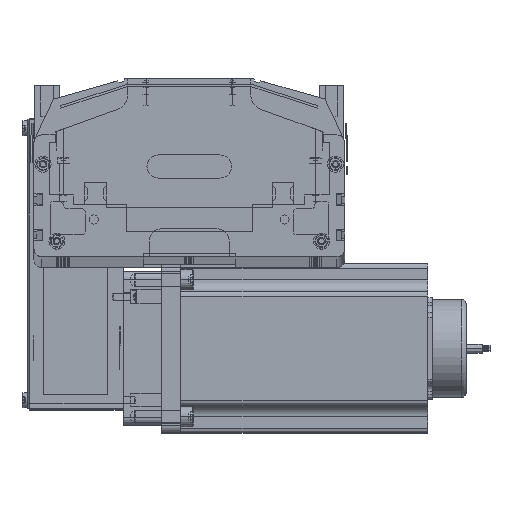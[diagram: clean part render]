
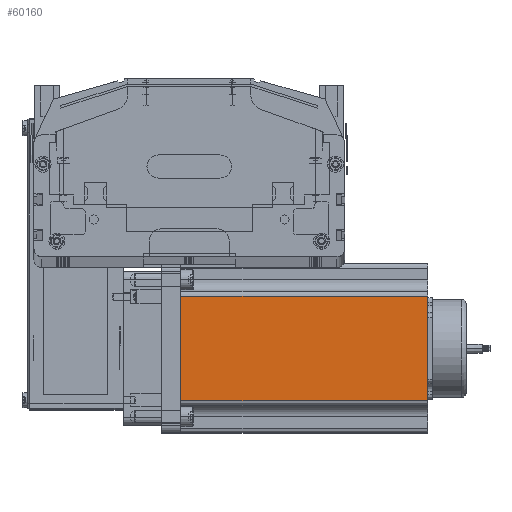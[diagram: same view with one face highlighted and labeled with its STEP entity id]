
A CAD part, top view. The second image highlights one B-rep face of the part: STEP entity #60160.
In plain terms, the highlighted planar face has unit normal (0, 0, 1) as drawn and (0, -1, 0) by its records, which use the part's own axes.
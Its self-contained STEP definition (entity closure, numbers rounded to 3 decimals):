
#158 = DIRECTION ( 'NONE',  ( 0., 0., 1. ) ) ;
#159 = DIRECTION ( 'NONE',  ( 0., 1., 0. ) ) ;
#160 = CARTESIAN_POINT ( 'NONE',  ( 0., 0., 160.5 ) ) ;
#162 = FACE_OUTER_BOUND ( 'NONE', #60186, .T. ) ;
#165 = PLANE ( 'NONE',  #168 ) ;
#168 = AXIS2_PLACEMENT_3D ( 'NONE', #160, #159, #158 ) ;
#169 = CARTESIAN_POINT ( 'NONE',  ( 88.952, 0., 0. ) ) ;
#174 = CARTESIAN_POINT ( 'NONE',  ( 21.048, 0., 0. ) ) ;
#178 = DIRECTION ( 'NONE',  ( 1., 0., 0. ) ) ;
#179 = VECTOR ( 'NONE', #178, 1000. ) ;
#180 = CARTESIAN_POINT ( 'NONE',  ( 0., 0., 160.5 ) ) ;
#182 = LINE ( 'NONE', #180, #179 ) ;
#201 = CARTESIAN_POINT ( 'NONE',  ( 88.952, 0., 160.5 ) ) ;
#216 = DIRECTION ( 'NONE',  ( 0., 0., 1. ) ) ;
#217 = VECTOR ( 'NONE', #216, 1000. ) ;
#218 = CARTESIAN_POINT ( 'NONE',  ( 88.952, 0., 160.5 ) ) ;
#219 = LINE ( 'NONE', #218, #217 ) ;
#60019 = ORIENTED_EDGE ( 'NONE', *, *, #60020, .T. ) ;
#60020 = EDGE_CURVE ( 'NONE', #60157, #60158, #99370, .T. ) ;
#60061 = VERTEX_POINT ( 'NONE', #99426 ) ;
#60147 = EDGE_CURVE ( 'NONE', #60061, #60190, #182, .T. ) ;
#60157 = VERTEX_POINT ( 'NONE', #174 ) ;
#60158 = VERTEX_POINT ( 'NONE', #169 ) ;
#60160 = ADVANCED_FACE ( 'NONE', ( #162 ), #165, .F. ) ;
#60162 = ORIENTED_EDGE ( 'NONE', *, *, #60147, .F. ) ;
#60165 = EDGE_CURVE ( 'NONE', #60158, #60190, #219, .T. ) ;
#60168 = ORIENTED_EDGE ( 'NONE', *, *, #60165, .T. ) ;
#60186 = EDGE_LOOP ( 'NONE', ( #60019, #60168, #60162, #60224 ) ) ;
#60190 = VERTEX_POINT ( 'NONE', #201 ) ;
#60224 = ORIENTED_EDGE ( 'NONE', *, *, #74157, .T. ) ;
#74157 = EDGE_CURVE ( 'NONE', #60061, #60157, #81141, .T. ) ;
#81138 = DIRECTION ( 'NONE',  ( 0., 0., -1. ) ) ;
#81139 = VECTOR ( 'NONE', #81138, 1000. ) ;
#81140 = CARTESIAN_POINT ( 'NONE',  ( 21.048, 0., 160.5 ) ) ;
#81141 = LINE ( 'NONE', #81140, #81139 ) ;
#99367 = DIRECTION ( 'NONE',  ( 1., 0., 0. ) ) ;
#99368 = VECTOR ( 'NONE', #99367, 1000. ) ;
#99369 = CARTESIAN_POINT ( 'NONE',  ( 0., 0., 0. ) ) ;
#99370 = LINE ( 'NONE', #99369, #99368 ) ;
#99426 = CARTESIAN_POINT ( 'NONE',  ( 21.048, 0., 160.5 ) ) ;
